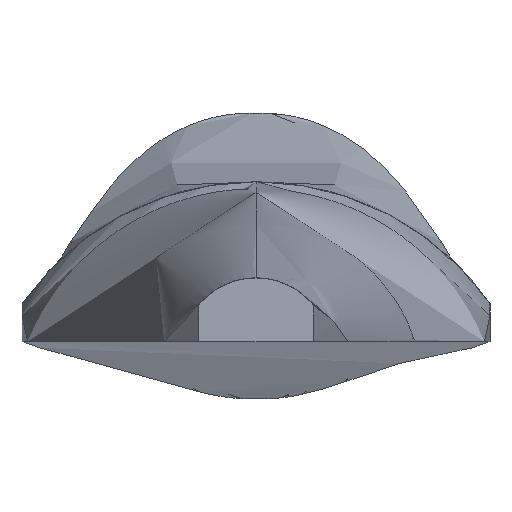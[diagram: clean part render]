
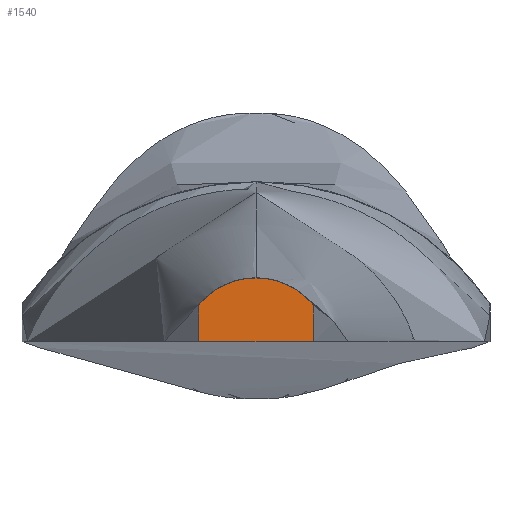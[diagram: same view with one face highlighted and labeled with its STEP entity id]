
A CAD part, left-side view. The second image highlights one B-rep face of the part: STEP entity #1540.
In plain terms, the highlighted planar face has unit normal (-1, 0, 0).
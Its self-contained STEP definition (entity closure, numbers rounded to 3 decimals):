
#50 = EDGE_LOOP ( 'NONE', ( #1205, #757, #144, #208, #1328 ) ) ;
#55 = CARTESIAN_POINT ( 'NONE',  ( -12., -78.998, 0. ) ) ;
#144 = ORIENTED_EDGE ( 'NONE', *, *, #598, .F. ) ;
#173 = CARTESIAN_POINT ( 'NONE',  ( -12., -81.002, 0. ) ) ;
#187 = PLANE ( 'NONE',  #786 ) ;
#198 = CARTESIAN_POINT ( 'NONE',  ( -12., -80.394, -0.383 ) ) ;
#208 = ORIENTED_EDGE ( 'NONE', *, *, #695, .F. ) ;
#242 = VECTOR ( 'NONE', #1364, 1000. ) ;
#335 = CARTESIAN_POINT ( 'NONE',  ( -12., -79.249, -0.551 ) ) ;
#363 = DIRECTION ( 'NONE',  ( 0., 0., -1. ) ) ;
#492 = DIRECTION ( 'NONE',  ( 1., 0., 0. ) ) ;
#498 = LINE ( 'NONE', #55, #643 ) ;
#598 = EDGE_CURVE ( 'NONE', #1142, #1092, #658, .T. ) ;
#610 = EDGE_CURVE ( 'NONE', #1359, #1299, #1071, .T. ) ;
#643 = VECTOR ( 'NONE', #996, 1000. ) ;
#658 =( BOUNDED_CURVE ( )  B_SPLINE_CURVE ( 3, ( #1246, #335, #1521, #1376 ),
 .UNSPECIFIED., .F., .T. ) 
 B_SPLINE_CURVE_WITH_KNOTS ( ( 4, 4 ),
 ( 0., 0.5 ),
 .UNSPECIFIED. ) 
 CURVE ( )  GEOMETRIC_REPRESENTATION_ITEM ( )  RATIONAL_B_SPLINE_CURVE ( ( 1., 0.936, 0.936, 1. ) ) 
 REPRESENTATION_ITEM ( '' )  );
#659 = LINE ( 'NONE', #173, #242 ) ;
#695 = EDGE_CURVE ( 'NONE', #1359, #1142, #498, .T. ) ;
#729 = VECTOR ( 'NONE', #1382, 1000. ) ;
#757 = ORIENTED_EDGE ( 'NONE', *, *, #1563, .F. ) ;
#786 = AXIS2_PLACEMENT_3D ( 'NONE', #1522, #492, #363 ) ;
#864 = CARTESIAN_POINT ( 'NONE',  ( -12., -80.751, -0.551 ) ) ;
#996 = DIRECTION ( 'NONE',  ( 0., 0., 1. ) ) ;
#1071 = LINE ( 'NONE', #1527, #729 ) ;
#1092 = VERTEX_POINT ( 'NONE', #1588 ) ;
#1142 = VERTEX_POINT ( 'NONE', #1401 ) ;
#1149 = CARTESIAN_POINT ( 'NONE',  ( -12., -78.998, -1.5 ) ) ;
#1166 = VERTEX_POINT ( 'NONE', #1672 ) ;
#1205 = ORIENTED_EDGE ( 'NONE', *, *, #1657, .F. ) ;
#1246 = CARTESIAN_POINT ( 'NONE',  ( -12., -78.998, -0.855 ) ) ;
#1299 = VERTEX_POINT ( 'NONE', #1689 ) ;
#1328 = ORIENTED_EDGE ( 'NONE', *, *, #610, .T. ) ;
#1359 = VERTEX_POINT ( 'NONE', #1149 ) ;
#1364 = DIRECTION ( 'NONE',  ( 0., 0., -1. ) ) ;
#1373 = CARTESIAN_POINT ( 'NONE',  ( -12., -81.002, -0.855 ) ) ;
#1376 = CARTESIAN_POINT ( 'NONE',  ( -12., -80., -0.383 ) ) ;
#1382 = DIRECTION ( 'NONE',  ( 0., -1., 0. ) ) ;
#1390 = CARTESIAN_POINT ( 'NONE',  ( -12., -80., -0.383 ) ) ;
#1401 = CARTESIAN_POINT ( 'NONE',  ( -12., -78.998, -0.855 ) ) ;
#1521 = CARTESIAN_POINT ( 'NONE',  ( -12., -79.606, -0.383 ) ) ;
#1522 = CARTESIAN_POINT ( 'NONE',  ( -12., -80., -1.5 ) ) ;
#1527 = CARTESIAN_POINT ( 'NONE',  ( -12., -80., -1.5 ) ) ;
#1540 = ADVANCED_FACE ( 'NONE', ( #1632 ), #187, .F. ) ;
#1563 = EDGE_CURVE ( 'NONE', #1092, #1166, #1670, .T. ) ;
#1588 = CARTESIAN_POINT ( 'NONE',  ( -12., -80., -0.383 ) ) ;
#1632 = FACE_OUTER_BOUND ( 'NONE', #50, .T. ) ;
#1657 = EDGE_CURVE ( 'NONE', #1166, #1299, #659, .T. ) ;
#1670 =( BOUNDED_CURVE ( )  B_SPLINE_CURVE ( 3, ( #1390, #198, #864, #1373 ),
 .UNSPECIFIED., .F., .F. ) 
 B_SPLINE_CURVE_WITH_KNOTS ( ( 4, 4 ),
 ( 0., 1. ),
 .UNSPECIFIED. ) 
 CURVE ( )  GEOMETRIC_REPRESENTATION_ITEM ( )  RATIONAL_B_SPLINE_CURVE ( ( 1., 0.936, 0.936, 1. ) ) 
 REPRESENTATION_ITEM ( '' )  );
#1672 = CARTESIAN_POINT ( 'NONE',  ( -12., -81.002, -0.855 ) ) ;
#1689 = CARTESIAN_POINT ( 'NONE',  ( -12., -81.002, -1.5 ) ) ;
